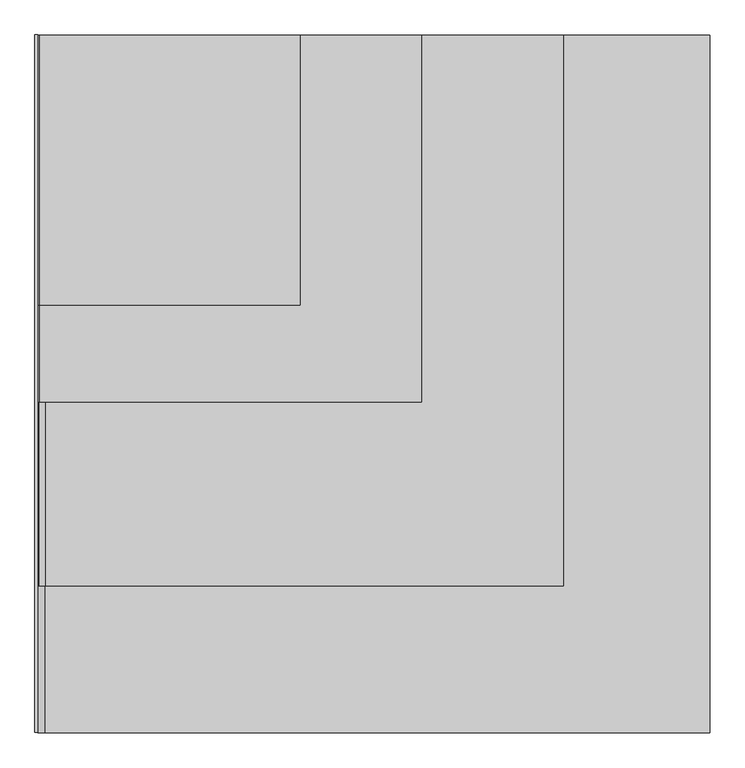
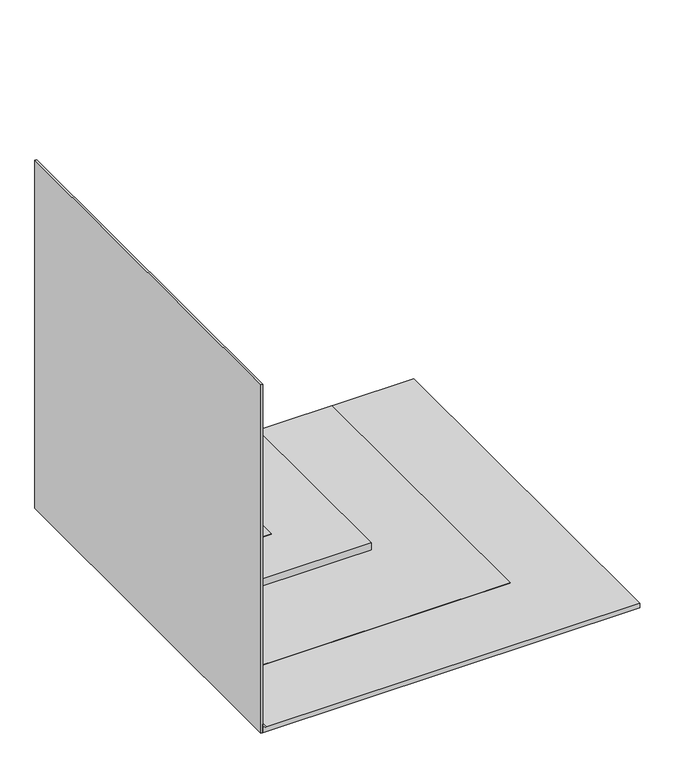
"""IFC4 building model written with IfcOpenShell, lengths in millimetres: proxy geometry, IMPER:IMPER:433934 : IMPER:IMPER:433934."""

from ifc_helpers import new_model, si_unit, point, frame, frame_2d, origin, place, context, project, spatial, polyline, circle_curve, trimmed, segment, composite_curve, outline, extrude, source, transform, mapped, element, save


def generic_models_16d6276a(model_context):
    return source(origin(), model_context, "Body", "SweptSolid", [
        extrude(outline(polyline([(-351.9704105, 145.8700195), (-340.9591004, 145.8700195), (-340.9591004, -2514.1299805), (-351.9704105, -2514.1299805), (-351.9704105, 145.8700195)])), frame((0.0, 0.0, -2.523798), z_axis=(0.0, 0.0, 1.0), x_axis=(1.0, 0.0, 0.0)), (0.0, 0.0, 1.0), 2500.0),
        extrude(outline(composite_curve([segment(polyline([(28.5018705, 2221.8598581), (28.5018705, -313.1902924)]), True, "CONTINUOUS"), segment(trimmed(circle_curve(frame_2d((57.476202, -311.9704105)), 29.0), [point((28.5018705, -313.1902924))], [point((56.6663512, -340.9591004))], True, "CARTESIAN"), True, "CONTINUOUS"), segment(polyline([(56.6663512, -340.9591004), (-2.523798, -340.9591004), (-2.523798, 2221.8598581), (28.5018705, 2221.8598581)]), True, "CONTINUOUS")], self_intersect=False)), frame((0.0, -2514.1299805, 0.0), z_axis=(0.0, 1.0, 0.0), x_axis=(0.0, 0.0, 1.0)), (0.0, 0.0, 1.0), 2660.0),
        extrude(outline(composite_curve([segment(polyline([(28.5018705, -313.1902924), (28.5018705, 1663.0408996), (31.5018705, 1663.0408996), (31.5018705, -313.1254434)]), True, "CONTINUOUS"), segment(trimmed(circle_curve(frame_2d((57.476202, -311.9704105)), 26.0), [point((31.5018705, -313.1254434))], [point((56.7093919, -337.9591004))], True, "CARTESIAN"), True, "CONTINUOUS"), segment(polyline([(56.7093919, -337.9591004), (82.5018705, -337.9591004), (82.5018705, -340.9591004), (56.6663512, -340.9591004)]), True, "CONTINUOUS"), segment(trimmed(circle_curve(frame_2d((57.476202, -311.9704105)), 29.0), [point((56.6663512, -340.9591004))], [point((28.5018705, -313.1902924))], False, "CARTESIAN"), True, "CONTINUOUS")], self_intersect=False)), frame((0.0, -1954.1299805, 0.0), z_axis=(0.0, 1.0, 0.0), x_axis=(0.0, 0.0, 1.0)), (0.0, 0.0, 1.0), 2100.0),
        extrude(outline(composite_curve([segment(polyline([(31.5018705, -313.1254434), (31.5018705, 1123.0408996), (82.5018705, 1123.0408996), (82.5018705, -337.9591004), (56.7093919, -337.9591004)]), True, "CONTINUOUS"), segment(trimmed(circle_curve(frame_2d((57.476202, -311.9704105)), 26.0), [point((56.7093919, -337.9591004))], [point((31.5018705, -313.1254434))], False, "CARTESIAN"), True, "CONTINUOUS")], self_intersect=False)), frame((0.0, -1254.1299805, 0.0), z_axis=(0.0, 1.0, 0.0), x_axis=(0.0, 0.0, 1.0)), (0.0, 0.0, 1.0), 1400.0),
        extrude(outline(polyline([(-335.9591004, 145.8700195), (-335.9591004, -1254.1299805), (-340.9591004, -1254.1299805), (-340.9591004, 145.8700195), (-335.9591004, 145.8700195)])), frame((0.0, 0.0, 82.5018705), z_axis=(0.0, 0.0, 1.0), x_axis=(1.0, 0.0, 0.0)), (0.0, 0.0, 1.0), 5.0),
        extrude(outline(polyline([(82.5018705, 658.5255001), (87.5018705, 658.5255001), (87.5018705, -335.9591004), (176.4567461, -335.9591004), (176.4567461, -340.9591004), (82.5018705, -340.9591004), (82.5018705, 658.5255001)])), frame((0.0, -884.0129772, 0.0), z_axis=(0.0, 1.0, 0.0), x_axis=(0.0, 0.0, 1.0)), (0.0, 0.0, 1.0), 1029.8829967),
    ])


if __name__ == "__main__":
    model = new_model("IFC4")
    model_context = context("Model", 3, world=origin())
    ifc_project = project(units=[si_unit("LENGTHUNIT", "METRE", prefix="MILLI")], contexts=[model_context])
    site = spatial("IfcSite", under=ifc_project)
    building = spatial("IfcBuilding", under=site)
    placement = place(None, origin())
    generic_models_shape = generic_models_16d6276a(model_context)
    element("IfcBuildingElementProxy", 1, Name="IMPER:IMPER:433934 : IMPER:IMPER:433934", ObjectType="IMPER:IMPER:433934 : IMPER:IMPER:433934", at=placement, inside=building, context=model_context, shape_type="MappedRepresentation", body=[
        mapped(generic_models_shape, transform((0.0, 0.0, 0.0), x_axis=(1.0, 0.0, 0.0), y_axis=(0.0, 1.0, 0.0), z_axis=(0.0, 0.0, 1.0))),
    ])
    save(model, "model.ifc")
